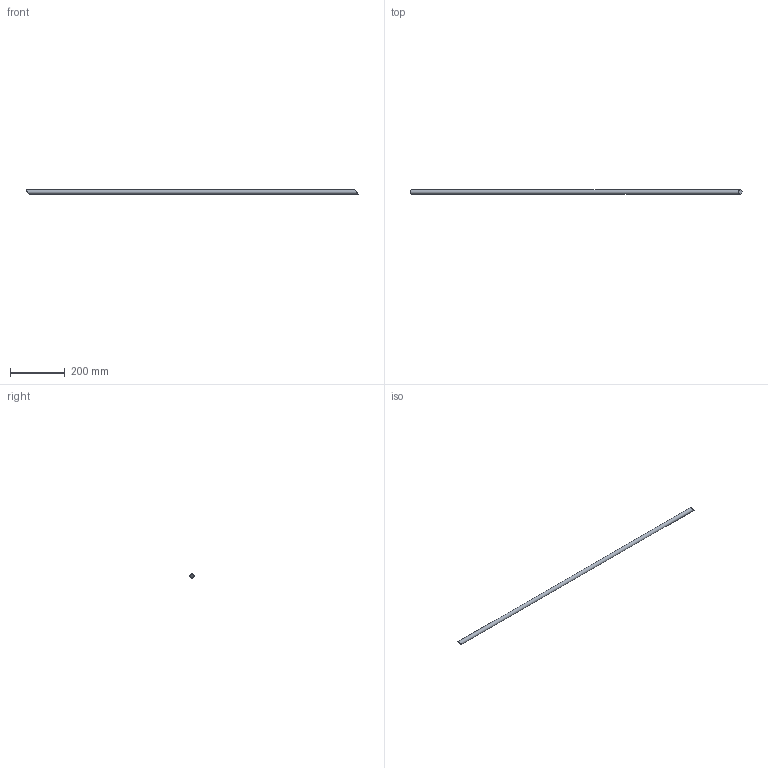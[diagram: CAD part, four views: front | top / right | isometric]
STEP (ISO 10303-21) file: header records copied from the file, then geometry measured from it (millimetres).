
FILE_DESCRIPTION(/* description */ (''),/* implementation_level */ '2;1');
FILE_NAME(/* name */ 'Pos111-Massieve as 15-S235JRG2-20st',/* time_stamp */ '2024-08-06T13:49:49+02:00',/* author */ (''),/* organization */ (''),/* preprocessor_version */ 'ST-DEVELOPER v16.5',/* originating_system */ 'HiCAD 2024 2901.2 Build 361',/* authorisation */ '');
FILE_SCHEMA (('AUTOMOTIVE_DESIGN { 1 0 10303 214 1 1 1 1 }'));
Length unit declared in the file: millimetre
Products named in the file (1): Pos111-Massieve as 15-S235JRG2-20st
Bounding box: 1208.83 x 14.98 x 14.99 mm (x, y, z)
Volume: 211471.8 mm3; surface area: 56847.3 mm2
Topology: 1 solids, 1 shells, 3 faces, 3 edges, 2 vertices
Faces by surface type: plane 2, cylinder 1
Full cylindrical faces by diameter (mm): 15 x1
Entity records: 92 total; most frequent: DIRECTION 10, CARTESIAN_POINT 7, PRESENTATION_STYLE_ASSIGNMENT 5, COLOUR_RGB 5, AXIS2_PLACEMENT_3D 5, DRAUGHTING_PRE_DEFINED_CURVE_FONT 4, CURVE_STYLE 4, OVER_RIDING_STYLED_ITEM 4
